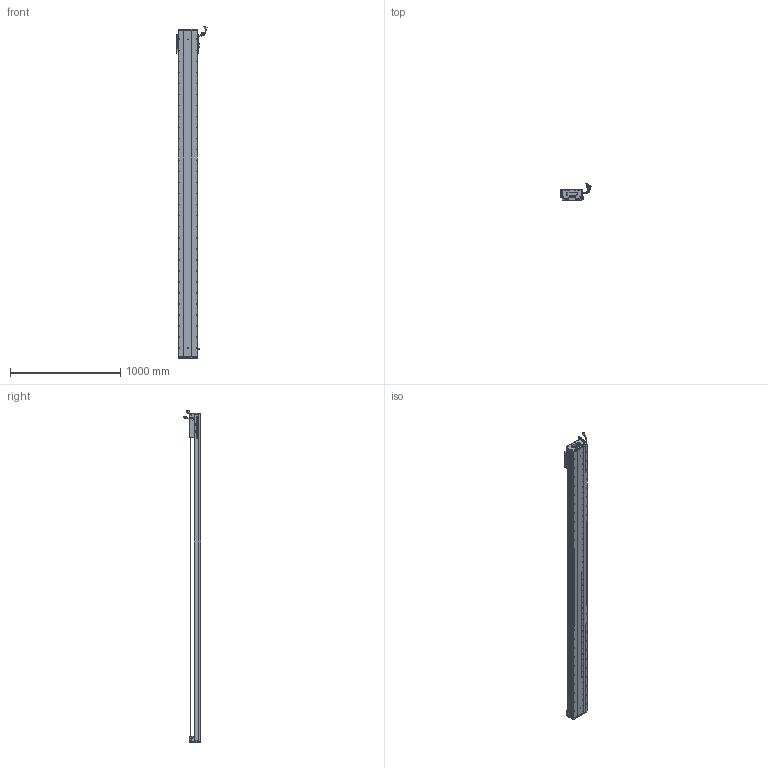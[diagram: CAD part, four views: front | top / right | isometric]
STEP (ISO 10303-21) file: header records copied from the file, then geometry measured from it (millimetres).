
FILE_DESCRIPTION (( 'STEP AP203' ), '1' );
FILE_NAME ('Z2-RY170D-1-L500-B-K.SLDASM_2700.step', '2021-05-17T09:11:47', ( '盈信电脑' ), ( '东莞市道滘镇水果街19号' ), 'SwSTEP 2.0', 'SolidWorks 2016', '' );
FILE_SCHEMA (( 'CONFIG_CONTROL_DESIGN' ));
Length unit declared in the file: millimetre
Products named in the file (36): SCREW-M1.6-1; 覜茼ん672; Z-RY170詩湍奻揤裔; SCREW-M1.7; LABEL-Part-1; 140蚥薯蝶輸; 080黍杅芛假蚾釱21遴; SCREW-M1.6-3; 140雄赽晤鎢ん堤盄; HARNESS-Part-2; COVER; HARNESS; SCALE-Part-2; RY170直线电机感应器672光电感应片; SEAL-Part-1; 170-Z-臏賑輸盄裔(21遴); PSLH080_PSLF2; LABEL; Z-RY170詩湍狟揤裔; PBU_SHEET; Z2-RY170-L500詩湍145mm遵_2700; Z2-RY170D-1-L500-B-K.SLDASM_2700; COVER-Part-1; Z2-RY170臏賑輸(21遴); Z2-RY170-L500耀郪菁釱_2700; SCALE; SCREW-M1.7-1; SHIELDPLATE; SCREW-M1.6; SCALE-Part-1; 榋妏寠巭燃_暯_M2_2; HARNESS-Part-1; HOLDER0; Z-170詩湍傷裔啣; SCREW-M1.6-2; SEAL
Assembly tree (41 placements, depth 4):
  Z2-RY170D-1-L500-B-K.SLDASM_2700
    Z2-RY170-L500耀郪菁釱_2700
    RY170直线电机感应器672光电感应片
    Z2-RY170臏賑輸(21遴)
    覜茼ん672  x3
    PSLH080_PSLF2
      SCALE
        SCALE-Part-1
        SCALE-Part-2
      HARNESS
        HARNESS-Part-1
        HARNESS-Part-2
      LABEL
        LABEL-Part-1
      COVER
        COVER-Part-1
      SEAL
        SEAL-Part-1
      榋妏寠巭燃_暯_M2_2
      SHIELDPLATE
      SCREW-M1.7
      SCREW-M1.7-1
      PBU_SHEET
      SCREW-M1.6
      SCREW-M1.6-1
      SCREW-M1.6-2
      SCREW-M1.6-3
      HOLDER0
    080黍杅芛假蚾釱21遴
    Z2-RY170-L500詩湍145mm遵_2700
    Z-170詩湍傷裔啣  x2
    Z-RY170詩湍奻揤裔  x2
    Z-RY170詩湍狟揤裔  x2
    140蚥薯蝶輸  x2
    170-Z-臏賑輸盄裔(21遴)
    140雄赽晤鎢ん堤盄
Bounding box: 275.29 x 158.11 x 3013.72 mm (x, y, z)
Volume: 14541635.4 mm3; surface area: 3611053 mm2
Topology: 36 solids, 36 shells, 4294 faces, 11981 edges, 7475 vertices
Faces by surface type: cylinder 2200, plane 1348, cone 624, torus 69, bspline 53
Entity records: 136897 total; most frequent: CARTESIAN_POINT 38904, ORIENTED_EDGE 20318, DIRECTION 18751, EDGE_CURVE 10159, AXIS2_PLACEMENT_3D 6920, VERTEX_POINT 6593, VECTOR 4911, LINE 4911
